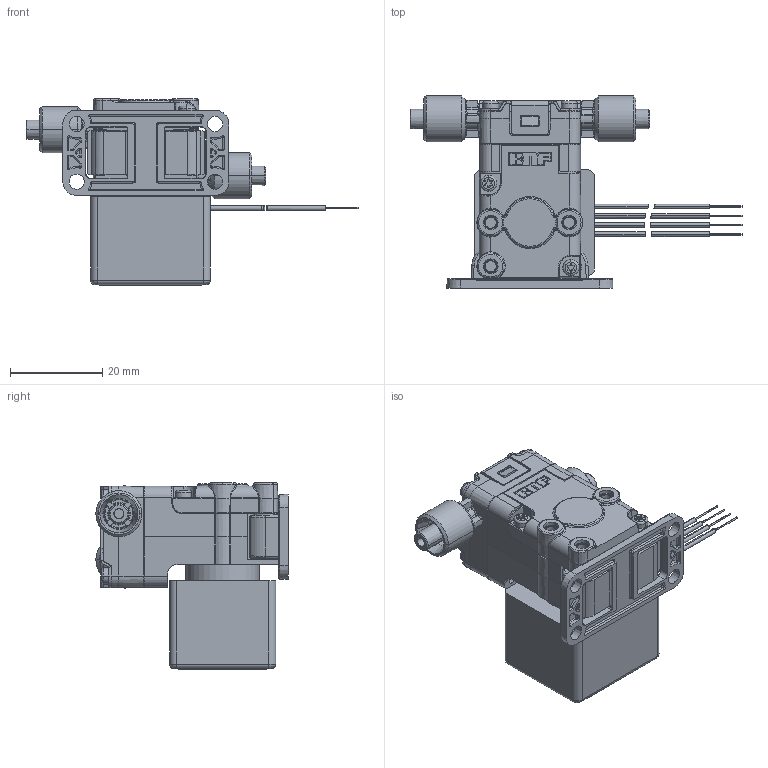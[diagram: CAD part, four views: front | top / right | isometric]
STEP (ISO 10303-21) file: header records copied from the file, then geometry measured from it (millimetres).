
FILE_DESCRIPTION((''),'2;1');
FILE_NAME('CAD1150855_ASM','2025-10-20T15:49:13',('UHermann'),('KNF Flodos AG, 6210 Sursee, Switzerland'),'CREO PARAMETRIC BY PTC INC, 2024401','CREO PARAMETRIC BY PTC INC, 2024401','');
FILE_SCHEMA(('AP242_MANAGED_MODEL_BASED_3D_ENGINEERING_MIM_LF { 1 0 10303 442 1 1 4 }'));
Products named in the file (4): BODY; HEAD; CLIP; CAD1150855_ASM
Assembly tree (3 placements, depth 2):
  CAD1150855_ASM
    BODY
    HEAD
    CLIP
Bounding box: 72 x 41.7 x 40.4 mm (x, y, z)
Volume: 29165.3 mm3; surface area: 13607.1 mm2
Topology: 7 solids, 7 shells, 2299 faces, 5719 edges, 3482 vertices
Faces by surface type: cylinder 742, plane 730, bspline 341, torus 206, cone 188, sphere 84, extrusion 8
Entity records: 124466 total; most frequent: CARTESIAN_POINT 37195, ORIENTED_EDGE 11412, DIRECTION 10657, PRESENTATION_STYLE_ASSIGNMENT 8040, STYLED_ITEM 8040, CURVE_STYLE 5721, EDGE_CURVE 5706, AXIS2_PLACEMENT_3D 4055
